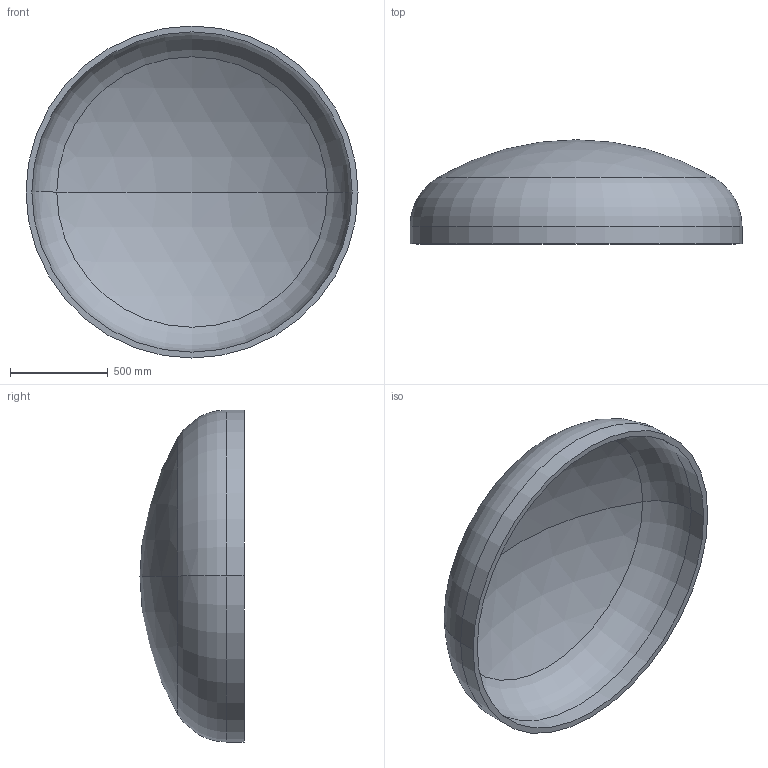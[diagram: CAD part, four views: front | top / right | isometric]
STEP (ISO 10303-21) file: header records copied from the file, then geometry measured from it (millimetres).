
FILE_DESCRIPTION (( 'STEP AP203' ), '1' );
FILE_NAME ('DIN 28013 Korbbogenform_-_Boden DIN 28013 - 1700 x 90 - I - s=30.step', '2016-07-01T11:44:48', ( '' ), ( '' ), 'SwSTEP 2.0', 'SolidWorks 2013', '' );
FILE_SCHEMA (( 'CONFIG_CONTROL_DESIGN' ));
Length unit declared in the file: millimetre
Products named in the file (1): DIN 28013 Korbbogenform_-_Boden DIN 28013 - 1700 x 90 - I - s=30
Bounding box: 1700 x 533.22 x 1700 mm (x, y, z)
Volume: 106180112.1 mm3; surface area: 7237950.5 mm2
Topology: 1 solids, 1 shells, 13 faces, 24 edges, 14 vertices
Faces by surface type: torus 4, cylinder 4, sphere 4, plane 1
Entity records: 407 total; most frequent: DIRECTION 72, CARTESIAN_POINT 52, ORIENTED_EDGE 48, AXIS2_PLACEMENT_3D 34, EDGE_CURVE 24, CIRCLE 20, EDGE_LOOP 14, VERTEX_POINT 14
